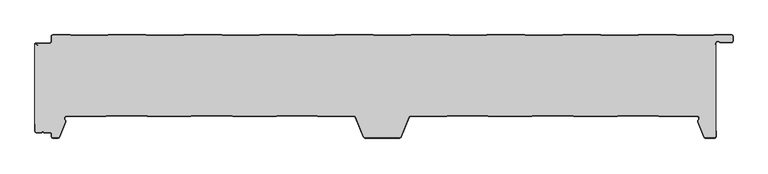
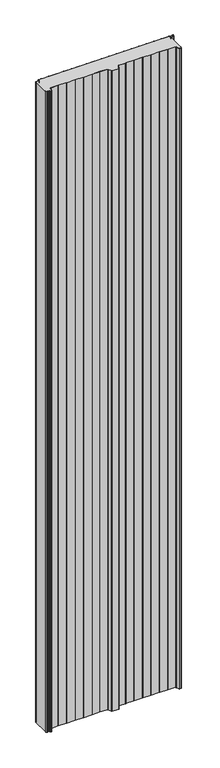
"""IFC4 building model written with IfcOpenShell, lengths in millimetres: plate geometry, ACH_Panel-Cubierta-3-Grecas-P3G : ACH_P3G_3-Rib-Roof-Panel_120M."""

from ifc_helpers import new_model, si_unit, point, frame_2d, origin, origin_with_axes, place, context, project, spatial, polyline, circle_curve, trimmed, segment, composite_curve, outline, extrude, source, transform, mapped, element, save


def plate_ad562564(model_context):
    return source(origin(), model_context, "Body", "SweptSolid", [
        extrude(outline(composite_curve([segment(polyline([(-499.496875, -13.8660254), (-495.496875, -16.1754265), (-495.096875, -15.4826062), (-498.1272598, -13.7330127)]), True, "CONTINUOUS"), segment(trimmed(circle_curve(frame_2d((-497.8772598, -13.3)), 0.5), [point((-498.1272598, -13.7330127))], [point((-497.8772598, -12.8))], False, "CARTESIAN"), True, "CONTINUOUS"), segment(polyline([(-497.8772598, -12.8), (-477.996875, -12.8)]), True, "CONTINUOUS"), segment(trimmed(circle_curve(frame_2d((-477.996875, -10.0)), 2.8), [point((-477.996875, -12.8))], [point((-475.196875, -10.0))], True, "CARTESIAN"), True, "CONTINUOUS"), segment(polyline([(-475.196875, -10.0), (-475.196875, -2.5)]), True, "CONTINUOUS"), segment(trimmed(circle_curve(frame_2d((-473.496875, -2.5)), 1.7), [point((-475.196875, -2.5))], [point((-473.496875, -0.8))], False, "CARTESIAN"), True, "CONTINUOUS"), segment(polyline([(-473.496875, -0.8), (-448.4313592, -0.8), (-447.4338592, -1.4), (-393.4298908, -1.4), (-392.4323908, -0.8), (-337.3213592, -0.8), (-336.3238592, -1.4), (-282.3198908, -1.4), (-281.3223908, -0.8), (-226.2113592, -0.8), (-225.2138592, -1.4), (-171.2098908, -1.4), (-170.2123908, -0.8), (-115.1013592, -0.8), (-114.1038592, -1.4), (-60.0998908, -1.4), (-59.1023908, -0.8), (-3.9913592, -0.8), (-2.9938592, -1.4), (51.0101092, -1.4), (52.0076092, -0.8), (107.1186408, -0.8), (108.1161408, -1.4), (162.1201092, -1.4), (163.1176092, -0.8), (218.2286408, -0.8), (219.2261408, -1.4), (273.2301092, -1.4), (274.2276092, -0.8), (329.3386408, -0.8), (330.3361408, -1.4), (384.3401092, -1.4), (385.3376092, -0.8), (440.4486408, -0.8), (441.4461408, -1.4), (495.4501092, -1.4), (496.4476092, -0.8), (521.503125, -0.8)]), True, "CONTINUOUS"), segment(trimmed(circle_curve(frame_2d((521.503125, -2.5)), 1.7), [point((521.503125, -0.8))], [point((523.203125, -2.5))], False, "CARTESIAN"), True, "CONTINUOUS"), segment(polyline([(523.203125, -2.5), (523.203125, -9.0)]), True, "CONTINUOUS"), segment(trimmed(circle_curve(frame_2d((521.503125, -9.0)), 1.7), [point((523.203125, -9.0))], [point((521.503125, -10.7))], False, "CARTESIAN"), True, "CONTINUOUS"), segment(polyline([(521.503125, -10.7), (505.8568186, -10.7)]), True, "CONTINUOUS"), segment(trimmed(circle_curve(frame_2d((505.8568186, -9.0)), 1.7), [point((505.8568186, -10.7))], [point((504.7323743, -10.275))], False, "CARTESIAN"), True, "CONTINUOUS"), segment(trimmed(circle_curve(frame_2d((501.8881916, -13.5)), 4.3), [point((504.7323743, -10.275))], [point((497.8475134, -12.0293134))], True, "CARTESIAN"), True, "CONTINUOUS"), segment(polyline([(497.8475134, -12.0293134), (497.1006025, -14.0814342)]), True, "CONTINUOUS"), segment(trimmed(circle_curve(frame_2d((495.503125, -13.5)), 1.7), [point((497.1006025, -14.0814342))], [point((495.503125, -15.2))], False, "CARTESIAN"), True, "CONTINUOUS"), segment(polyline([(495.503125, -15.2), (490.503125, -15.2), (490.503125, -16.0), (495.503125, -16.0)]), True, "CONTINUOUS"), segment(trimmed(circle_curve(frame_2d((495.503125, -13.5)), 2.5), [point((495.503125, -16.0))], [point((497.8523566, -14.3550504))], True, "CARTESIAN"), True, "CONTINUOUS"), segment(polyline([(497.8523566, -14.3550504), (498.203125, -13.391322), (498.203125, -149.5)]), True, "CONTINUOUS"), segment(trimmed(circle_curve(frame_2d((496.503125, -149.5)), 1.7), [point((498.203125, -149.5))], [point((496.503125, -151.2))], False, "CARTESIAN"), True, "CONTINUOUS"), segment(polyline([(496.503125, -151.2), (483.6093963, -151.2)]), True, "CONTINUOUS"), segment(trimmed(circle_curve(frame_2d((483.6093963, -149.5)), 1.7), [point((483.6093963, -151.2))], [point((482.0331837, -150.1368312))], False, "CARTESIAN"), True, "CONTINUOUS"), segment(polyline([(482.0331837, -150.1368312), (473.0241766, -127.838756)]), True, "CONTINUOUS"), segment(trimmed(circle_curve(frame_2d((474.6003891, -127.2019248)), 1.7), [point((473.0241766, -127.838756))], [point((473.4430606, -125.9566976))], False, "CARTESIAN"), True, "CONTINUOUS"), segment(trimmed(circle_curve(frame_2d((470.7880129, -123.1)), 3.9), [point((473.4430606, -125.9566976))], [point((470.7880129, -119.2))], True, "CARTESIAN"), True, "CONTINUOUS"), segment(polyline([(470.7880129, -119.2), (415.2251881, -119.2), (414.2276881, -118.6), (354.7785619, -118.6), (353.7810619, -119.2), (290.2252392, -119.2), (289.2266715, -118.6), (229.7795785, -118.6), (228.7810108, -119.2), (165.225925, -119.2), (164.2273573, -118.6), (104.7788927, -118.6), (103.780325, -119.2), (50.7367047, -119.2)]), True, "CONTINUOUS"), segment(trimmed(circle_curve(frame_2d((50.7367047, -122.0)), 2.8), [point((50.7367047, -119.2))], [point((48.1405899, -120.9511015))], True, "CARTESIAN"), True, "CONTINUOUS"), segment(polyline([(48.1405899, -120.9511015), (36.4751274, -149.8241345)]), True, "CONTINUOUS"), segment(trimmed(circle_curve(frame_2d((34.4353229, -149.0)), 2.2), [point((36.4751274, -149.8241345))], [point((34.4353229, -151.2))], False, "CARTESIAN"), True, "CONTINUOUS"), segment(polyline([(34.4353229, -151.2), (-15.5090729, -151.2)]), True, "CONTINUOUS"), segment(trimmed(circle_curve(frame_2d((-15.5090729, -149.0)), 2.2), [point((-15.5090729, -151.2))], [point((-17.5488774, -149.8241345))], False, "CARTESIAN"), True, "CONTINUOUS"), segment(polyline([(-17.5488774, -149.8241345), (-29.2143399, -120.9511015)]), True, "CONTINUOUS"), segment(trimmed(circle_curve(frame_2d((-31.8104547, -122.0)), 2.8), [point((-29.2143399, -120.9511015))], [point((-31.8104547, -119.2))], True, "CARTESIAN"), True, "CONTINUOUS"), segment(polyline([(-31.8104547, -119.2), (-84.8548119, -119.2), (-85.8523119, -118.6), (-145.3014381, -118.6), (-146.2989381, -119.2), (-209.8548119, -119.2), (-210.8523119, -118.6), (-270.3014381, -118.6), (-271.2989381, -119.2), (-334.8548119, -119.2), (-335.8523119, -118.6), (-395.3011073, -118.6), (-396.299675, -119.2), (-453.2387629, -119.2)]), True, "CONTINUOUS"), segment(trimmed(circle_curve(frame_2d((-453.2387629, -123.1)), 3.9), [point((-453.2387629, -119.2))], [point((-455.8938106, -125.9566976))], True, "CARTESIAN"), True, "CONTINUOUS"), segment(trimmed(circle_curve(frame_2d((-457.0511391, -127.2019248)), 1.7), [point((-455.8938106, -125.9566976))], [point((-455.4749266, -127.838756))], False, "CARTESIAN"), True, "CONTINUOUS"), segment(polyline([(-455.4749266, -127.838756), (-464.4839337, -150.1368312)]), True, "CONTINUOUS"), segment(trimmed(circle_curve(frame_2d((-466.0601463, -149.5)), 1.7), [point((-464.4839337, -150.1368312))], [point((-466.0601463, -151.2))], False, "CARTESIAN"), True, "CONTINUOUS"), segment(polyline([(-466.0601463, -151.2), (-473.496875, -151.2)]), True, "CONTINUOUS"), segment(trimmed(circle_curve(frame_2d((-473.496875, -149.5)), 1.7), [point((-473.496875, -151.2))], [point((-475.196875, -149.5))], False, "CARTESIAN"), True, "CONTINUOUS"), segment(polyline([(-475.196875, -149.5), (-475.196875, -146.0)]), True, "CONTINUOUS"), segment(trimmed(circle_curve(frame_2d((-477.996875, -146.0)), 2.8), [point((-475.196875, -146.0))], [point((-477.996875, -143.2))], True, "CARTESIAN"), True, "CONTINUOUS"), segment(polyline([(-477.996875, -143.2), (-486.5995084, -143.2)]), True, "CONTINUOUS"), segment(trimmed(circle_curve(frame_2d((-488.496875, -144.5)), 2.3), [point((-486.5995084, -143.2))], [point((-490.3942416, -143.2))], True, "CARTESIAN"), True, "CONTINUOUS"), segment(polyline([(-490.3942416, -143.2), (-497.496875, -143.2)]), True, "CONTINUOUS"), segment(trimmed(circle_curve(frame_2d((-497.496875, -141.5)), 1.7), [point((-497.496875, -143.2))], [point((-499.196875, -141.5))], False, "CARTESIAN"), True, "CONTINUOUS"), segment(polyline([(-499.196875, -141.5), (-499.196875, -131.18), (-499.996875, -131.18), (-499.996875, -13.0)]), True, "CONTINUOUS"), segment(trimmed(circle_curve(frame_2d((-498.996875, -13.0)), 1.0), [point((-499.996875, -13.0))], [point((-499.496875, -13.8660254))], True, "CARTESIAN"), True, "CONTINUOUS")], self_intersect=False)), origin_with_axes(), (0.0, 0.0, 1.0), 5000.0),
        extrude(outline(composite_curve([segment(trimmed(circle_curve(frame_2d((-478.0, -10.0)), 2.0), [point((-478.0, -12.0))], [point((-476.0, -10.0))], True, "CARTESIAN"), True, "CONTINUOUS"), segment(polyline([(-476.0, -10.0), (-476.0, -2.5)]), True, "CONTINUOUS"), segment(trimmed(circle_curve(frame_2d((-473.5, -2.5)), 2.5), [point((-476.0, -2.5))], [point((-473.5, 0.0))], False, "CARTESIAN"), True, "CONTINUOUS"), segment(polyline([(-473.5, 0.0), (-448.2124211, 0.0), (-447.2149211, -0.6), (-393.6550789, -0.6), (-392.6575789, 0.0), (-337.1024211, 0.0), (-336.1049211, -0.6), (-282.5450789, -0.6), (-281.5475789, 0.0), (-225.9924211, 0.0), (-224.9949211, -0.6), (-171.4350789, -0.6), (-170.4375789, 0.0), (-114.8824211, 0.0), (-113.8849211, -0.6), (-60.3250789, -0.6), (-59.3275789, 0.0), (-3.7724211, 0.0), (-2.7749211, -0.6), (50.7849211, -0.6), (51.7824211, 0.0), (107.3375789, 0.0), (108.3350789, -0.6), (161.8949211, -0.6), (162.8924211, 0.0), (218.4475789, 0.0), (219.4450789, -0.6), (273.0049211, -0.6), (274.0024211, 0.0), (329.5575789, 0.0), (330.5550789, -0.6), (384.1149211, -0.6), (385.1124211, 0.0), (440.6675789, 0.0), (441.6650789, -0.6), (495.2249211, -0.6), (496.2224211, 0.0), (521.5, 0.0)]), True, "CONTINUOUS"), segment(trimmed(circle_curve(frame_2d((521.5, -2.5)), 2.5), [point((521.5, 0.0))], [point((524.0, -2.5))], False, "CARTESIAN"), True, "CONTINUOUS"), segment(polyline([(524.0, -2.5), (524.0, -9.0)]), True, "CONTINUOUS"), segment(trimmed(circle_curve(frame_2d((521.5, -9.0)), 2.5), [point((524.0, -9.0))], [point((521.5, -11.5))], False, "CARTESIAN"), True, "CONTINUOUS"), segment(polyline([(521.5, -11.5), (505.8536936, -11.5)]), True, "CONTINUOUS"), segment(trimmed(circle_curve(frame_2d((505.8536936, -9.0)), 2.5), [point((505.8536936, -11.5))], [point((504.200099, -10.875))], False, "CARTESIAN"), True, "CONTINUOUS"), segment(trimmed(circle_curve(frame_2d((501.8850666, -13.5)), 3.5), [point((504.200099, -10.875))], [point((498.5961425, -12.3029295))], True, "CARTESIAN"), True, "CONTINUOUS"), segment(polyline([(498.5961425, -12.3029295), (497.8492316, -14.3550504)]), True, "CONTINUOUS"), segment(trimmed(circle_curve(frame_2d((495.5, -13.5)), 2.5), [point((497.8492316, -14.3550504))], [point((495.5, -16.0))], False, "CARTESIAN"), True, "CONTINUOUS"), segment(polyline([(495.5, -16.0), (490.5, -16.0), (490.5, -15.2), (495.5, -15.2)]), True, "CONTINUOUS"), segment(trimmed(circle_curve(frame_2d((495.5, -13.5)), 1.7), [point((495.5, -15.2))], [point((497.0974775, -14.0814342))], True, "CARTESIAN"), True, "CONTINUOUS"), segment(polyline([(497.0974775, -14.0814342), (497.8443884, -12.0293134)]), True, "CONTINUOUS"), segment(trimmed(circle_curve(frame_2d((501.8850666, -13.5)), 4.3), [point((497.8443884, -12.0293134))], [point((504.7292493, -10.275))], False, "CARTESIAN"), True, "CONTINUOUS"), segment(trimmed(circle_curve(frame_2d((505.8536936, -9.0)), 1.7), [point((504.7292493, -10.275))], [point((505.8536936, -10.7))], True, "CARTESIAN"), True, "CONTINUOUS"), segment(polyline([(505.8536936, -10.7), (521.5, -10.7)]), True, "CONTINUOUS"), segment(trimmed(circle_curve(frame_2d((521.5, -9.0)), 1.7), [point((521.5, -10.7))], [point((523.2, -9.0))], True, "CARTESIAN"), True, "CONTINUOUS"), segment(polyline([(523.2, -9.0), (523.2, -2.5)]), True, "CONTINUOUS"), segment(trimmed(circle_curve(frame_2d((521.5, -2.5)), 1.7), [point((523.2, -2.5))], [point((521.5, -0.8))], True, "CARTESIAN"), True, "CONTINUOUS"), segment(polyline([(521.5, -0.8), (496.4444842, -0.8), (495.4469842, -1.4), (441.4430158, -1.4), (440.4455158, -0.8), (385.3344842, -0.8), (384.3369842, -1.4), (330.3330158, -1.4), (329.3355158, -0.8), (274.2244842, -0.8), (273.2269842, -1.4), (219.2230158, -1.4), (218.2255158, -0.8), (163.1144842, -0.8), (162.1169842, -1.4), (108.1130158, -1.4), (107.1155158, -0.8), (52.0044842, -0.8), (51.0069842, -1.4), (-2.9969842, -1.4), (-3.9944842, -0.8), (-59.1055158, -0.8), (-60.1030158, -1.4), (-114.1069842, -1.4), (-115.1044842, -0.8), (-170.2155158, -0.8), (-171.2130158, -1.4), (-225.2169842, -1.4), (-226.2144842, -0.8), (-281.3255158, -0.8), (-282.3230158, -1.4), (-336.3269842, -1.4), (-337.3244842, -0.8), (-392.4355158, -0.8), (-393.4330158, -1.4), (-447.4369842, -1.4), (-448.4344842, -0.8), (-473.5, -0.8)]), True, "CONTINUOUS"), segment(trimmed(circle_curve(frame_2d((-473.5, -2.5)), 1.7), [point((-473.5, -0.8))], [point((-475.2, -2.5))], True, "CARTESIAN"), True, "CONTINUOUS"), segment(polyline([(-475.2, -2.5), (-475.2, -10.0)]), True, "CONTINUOUS"), segment(trimmed(circle_curve(frame_2d((-478.0, -10.0)), 2.8), [point((-475.2, -10.0))], [point((-478.0, -12.8))], False, "CARTESIAN"), True, "CONTINUOUS"), segment(polyline([(-478.0, -12.8), (-497.8803848, -12.8)]), True, "CONTINUOUS"), segment(trimmed(circle_curve(frame_2d((-497.8803848, -13.3)), 0.5), [point((-497.8803848, -12.8))], [point((-498.1303848, -13.7330127))], True, "CARTESIAN"), True, "CONTINUOUS"), segment(polyline([(-498.1303848, -13.7330127), (-495.1, -15.4826062), (-495.5, -16.1754265), (-499.5, -13.8660254)]), True, "CONTINUOUS"), segment(trimmed(circle_curve(frame_2d((-499.0, -13.0)), 1.0), [point((-499.5, -13.8660254))], [point((-499.0, -12.0))], False, "CARTESIAN"), True, "CONTINUOUS"), segment(polyline([(-499.0, -12.0), (-478.0, -12.0)]), True, "CONTINUOUS")], self_intersect=False)), origin_with_axes(), (0.0, 0.0, 1.0), 5000.0),
        extrude(outline(composite_curve([segment(polyline([(-500.0, -141.5), (-500.0, -131.18), (-499.2, -131.18), (-499.2, -141.5)]), True, "CONTINUOUS"), segment(trimmed(circle_curve(frame_2d((-497.5, -141.5)), 1.7), [point((-499.2, -141.5))], [point((-497.5, -143.2))], True, "CARTESIAN"), True, "CONTINUOUS"), segment(polyline([(-497.5, -143.2), (-490.3973666, -143.2)]), True, "CONTINUOUS"), segment(trimmed(circle_curve(frame_2d((-488.5, -144.5)), 2.3), [point((-490.3973666, -143.2))], [point((-486.6026334, -143.2))], False, "CARTESIAN"), True, "CONTINUOUS"), segment(polyline([(-486.6026334, -143.2), (-478.0, -143.2)]), True, "CONTINUOUS"), segment(trimmed(circle_curve(frame_2d((-478.0, -146.0)), 2.8), [point((-478.0, -143.2))], [point((-475.2, -146.0))], False, "CARTESIAN"), True, "CONTINUOUS"), segment(polyline([(-475.2, -146.0), (-475.2, -149.5)]), True, "CONTINUOUS"), segment(trimmed(circle_curve(frame_2d((-473.5, -149.5)), 1.7), [point((-475.2, -149.5))], [point((-473.5, -151.2))], True, "CARTESIAN"), True, "CONTINUOUS"), segment(polyline([(-473.5, -151.2), (-466.0632713, -151.2)]), True, "CONTINUOUS"), segment(trimmed(circle_curve(frame_2d((-466.0632713, -149.5)), 1.7), [point((-466.0632713, -151.2))], [point((-464.4870587, -150.1368312))], True, "CARTESIAN"), True, "CONTINUOUS"), segment(polyline([(-464.4870587, -150.1368312), (-455.4780516, -127.838756)]), True, "CONTINUOUS"), segment(trimmed(circle_curve(frame_2d((-457.0542641, -127.2019248)), 1.7), [point((-455.4780516, -127.838756))], [point((-455.8969356, -125.9566976))], True, "CARTESIAN"), True, "CONTINUOUS"), segment(trimmed(circle_curve(frame_2d((-453.2418879, -123.1)), 3.9), [point((-455.8969356, -125.9566976))], [point((-453.2418879, -119.2))], False, "CARTESIAN"), True, "CONTINUOUS"), segment(polyline([(-453.2418879, -119.2), (-396.3028, -119.2), (-395.3042323, -118.6), (-335.8554369, -118.6), (-334.8579369, -119.2), (-271.3020631, -119.2), (-270.3045631, -118.6), (-210.8554369, -118.6), (-209.8579369, -119.2), (-146.3020631, -119.2), (-145.3045631, -118.6), (-85.8554369, -118.6), (-84.8579369, -119.2), (-31.8135797, -119.2)]), True, "CONTINUOUS"), segment(trimmed(circle_curve(frame_2d((-31.8135797, -122.0)), 2.8), [point((-31.8135797, -119.2))], [point((-29.2174649, -120.9511015))], False, "CARTESIAN"), True, "CONTINUOUS"), segment(polyline([(-29.2174649, -120.9511015), (-17.5520024, -149.8241345)]), True, "CONTINUOUS"), segment(trimmed(circle_curve(frame_2d((-15.5121979, -149.0)), 2.2), [point((-17.5520024, -149.8241345))], [point((-15.5121979, -151.2))], True, "CARTESIAN"), True, "CONTINUOUS"), segment(polyline([(-15.5121979, -151.2), (34.4321979, -151.2)]), True, "CONTINUOUS"), segment(trimmed(circle_curve(frame_2d((34.4321979, -149.0)), 2.2), [point((34.4321979, -151.2))], [point((36.4720024, -149.8241345))], True, "CARTESIAN"), True, "CONTINUOUS"), segment(polyline([(36.4720024, -149.8241345), (48.1374649, -120.9511015)]), True, "CONTINUOUS"), segment(trimmed(circle_curve(frame_2d((50.7335797, -122.0)), 2.8), [point((48.1374649, -120.9511015))], [point((50.7335797, -119.2))], False, "CARTESIAN"), True, "CONTINUOUS"), segment(polyline([(50.7335797, -119.2), (103.7772, -119.2), (104.7757677, -118.6), (164.2242323, -118.6), (165.2228, -119.2), (228.7778858, -119.2), (229.7764535, -118.6), (289.2235465, -118.6), (290.2221142, -119.2), (353.7779369, -119.2), (354.7754369, -118.6), (414.2245631, -118.6), (415.2220631, -119.2), (470.7848879, -119.2)]), True, "CONTINUOUS"), segment(trimmed(circle_curve(frame_2d((470.7848879, -123.1)), 3.9), [point((470.7848879, -119.2))], [point((473.4399356, -125.9566976))], False, "CARTESIAN"), True, "CONTINUOUS"), segment(trimmed(circle_curve(frame_2d((474.5972641, -127.2019248)), 1.7), [point((473.4399356, -125.9566976))], [point((473.0210516, -127.838756))], True, "CARTESIAN"), True, "CONTINUOUS"), segment(polyline([(473.0210516, -127.838756), (482.0300587, -150.1368312)]), True, "CONTINUOUS"), segment(trimmed(circle_curve(frame_2d((483.6062713, -149.5)), 1.7), [point((482.0300587, -150.1368312))], [point((483.6062713, -151.2))], True, "CARTESIAN"), True, "CONTINUOUS"), segment(polyline([(483.6062713, -151.2), (496.5, -151.2)]), True, "CONTINUOUS"), segment(trimmed(circle_curve(frame_2d((496.5, -149.5)), 1.7), [point((496.5, -151.2))], [point((498.2, -149.5))], True, "CARTESIAN"), True, "CONTINUOUS"), segment(polyline([(498.2, -149.5), (498.2, -141.0), (499.0, -141.0), (499.0, -149.5)]), True, "CONTINUOUS"), segment(trimmed(circle_curve(frame_2d((496.5, -149.5)), 2.5), [point((499.0, -149.5))], [point((496.5, -152.0))], False, "CARTESIAN"), True, "CONTINUOUS"), segment(polyline([(496.5, -152.0), (483.6062713, -152.0)]), True, "CONTINUOUS"), segment(trimmed(circle_curve(frame_2d((483.6062713, -149.5)), 2.5), [point((483.6062713, -152.0))], [point((481.2883117, -150.4365165))], False, "CARTESIAN"), True, "CONTINUOUS"), segment(polyline([(481.2883117, -150.4365165), (472.2793045, -128.1384413)]), True, "CONTINUOUS"), segment(trimmed(circle_curve(frame_2d((474.5972641, -127.2019248)), 2.5), [point((472.2793045, -128.1384413))], [point((472.8953104, -125.3707084))], False, "CARTESIAN"), True, "CONTINUOUS"), segment(trimmed(circle_curve(frame_2d((470.7848879, -123.1)), 3.1), [point((472.8953104, -125.3707084))], [point((470.7848879, -120.0))], True, "CARTESIAN"), True, "CONTINUOUS"), segment(polyline([(470.7848879, -120.0), (415.0, -120.0), (414.0025, -119.4), (354.9975, -119.4), (354.0, -120.0), (290.0002546, -120.0), (289.0016869, -119.4), (229.9983131, -119.4), (228.9997454, -120.0), (165.0009404, -120.0), (164.0023727, -119.4), (104.9976273, -119.4), (103.9990596, -120.0), (50.7335797, -120.0)]), True, "CONTINUOUS"), segment(trimmed(circle_curve(frame_2d((50.7335797, -122.0)), 2.0), [point((50.7335797, -120.0))], [point((48.879212, -121.2507868))], True, "CARTESIAN"), True, "CONTINUOUS"), segment(polyline([(48.879212, -121.2507868), (37.2137494, -150.1238198)]), True, "CONTINUOUS"), segment(trimmed(circle_curve(frame_2d((34.4321979, -149.0)), 3.0), [point((37.2137494, -150.1238198))], [point((34.4321979, -152.0))], False, "CARTESIAN"), True, "CONTINUOUS"), segment(polyline([(34.4321979, -152.0), (-15.5121979, -152.0)]), True, "CONTINUOUS"), segment(trimmed(circle_curve(frame_2d((-15.5121979, -149.0)), 3.0), [point((-15.5121979, -152.0))], [point((-18.2937494, -150.1238198))], False, "CARTESIAN"), True, "CONTINUOUS"), segment(polyline([(-18.2937494, -150.1238198), (-29.959212, -121.2507868)]), True, "CONTINUOUS"), segment(trimmed(circle_curve(frame_2d((-31.8135797, -122.0)), 2.0), [point((-29.959212, -121.2507868))], [point((-31.8135797, -120.0))], True, "CARTESIAN"), True, "CONTINUOUS"), segment(polyline([(-31.8135797, -120.0), (-85.08, -120.0), (-86.0775, -119.4), (-145.0825, -119.4), (-146.08, -120.0), (-210.08, -120.0), (-211.0775, -119.4), (-270.0825, -119.4), (-271.08, -120.0), (-335.08, -120.0), (-336.0775, -119.4), (-395.0823727, -119.4), (-396.0809404, -120.0), (-453.2418879, -120.0)]), True, "CONTINUOUS"), segment(trimmed(circle_curve(frame_2d((-453.2418879, -123.1)), 3.1), [point((-453.2418879, -120.0))], [point((-455.3523104, -125.3707084))], True, "CARTESIAN"), True, "CONTINUOUS"), segment(trimmed(circle_curve(frame_2d((-457.0542641, -127.2019248)), 2.5), [point((-455.3523104, -125.3707084))], [point((-454.7363045, -128.1384413))], False, "CARTESIAN"), True, "CONTINUOUS"), segment(polyline([(-454.7363045, -128.1384413), (-463.7453117, -150.4365165)]), True, "CONTINUOUS"), segment(trimmed(circle_curve(frame_2d((-466.0632713, -149.5)), 2.5), [point((-463.7453117, -150.4365165))], [point((-466.0632713, -152.0))], False, "CARTESIAN"), True, "CONTINUOUS"), segment(polyline([(-466.0632713, -152.0), (-473.5, -152.0)]), True, "CONTINUOUS"), segment(trimmed(circle_curve(frame_2d((-473.5, -149.5)), 2.5), [point((-473.5, -152.0))], [point((-476.0, -149.5))], False, "CARTESIAN"), True, "CONTINUOUS"), segment(polyline([(-476.0, -149.5), (-476.0, -146.0)]), True, "CONTINUOUS"), segment(trimmed(circle_curve(frame_2d((-478.0, -146.0)), 2.0), [point((-476.0, -146.0))], [point((-478.0, -144.0))], True, "CARTESIAN"), True, "CONTINUOUS"), segment(polyline([(-478.0, -144.0), (-486.263932, -144.0)]), True, "CONTINUOUS"), segment(trimmed(circle_curve(frame_2d((-486.263932, -142.5)), 1.5), [point((-486.263932, -144.0))], [point((-487.381966, -143.5))], False, "CARTESIAN"), True, "CONTINUOUS"), segment(trimmed(circle_curve(frame_2d((-488.5, -144.5)), 1.5), [point((-487.381966, -143.5))], [point((-489.618034, -143.5))], True, "CARTESIAN"), True, "CONTINUOUS"), segment(trimmed(circle_curve(frame_2d((-490.736068, -142.5)), 1.5), [point((-489.618034, -143.5))], [point((-490.736068, -144.0))], False, "CARTESIAN"), True, "CONTINUOUS"), segment(polyline([(-490.736068, -144.0), (-497.5, -144.0)]), True, "CONTINUOUS"), segment(trimmed(circle_curve(frame_2d((-497.5, -141.5)), 2.5), [point((-497.5, -144.0))], [point((-500.0, -141.5))], False, "CARTESIAN"), True, "CONTINUOUS")], self_intersect=False)), origin_with_axes(), (0.0, 0.0, 1.0), 5000.0),
    ])


if __name__ == "__main__":
    model = new_model("IFC4")
    model_context = context("Model", 3, world=origin())
    ifc_project = project(units=[si_unit("LENGTHUNIT", "METRE", prefix="MILLI")], contexts=[model_context])
    site = spatial("IfcSite", under=ifc_project)
    building = spatial("IfcBuilding", under=site)
    placement = place(None, origin())
    plate_shape = plate_ad562564(model_context)
    element("IfcPlate", 1, ObjectType="ACH_Panel-Cubierta-3-Grecas-P3G : ACH_P3G_3-Rib-Roof-Panel_120M", at=placement, inside=building, context=model_context, shape_type="MappedRepresentation", body=[
        mapped(plate_shape, transform((0.0, 0.0, 0.0), x_axis=(1.0, 0.0, 0.0), y_axis=(0.0, 1.0, 0.0), z_axis=(0.0, 0.0, 1.0))),
    ])
    save(model, "model.ifc")
